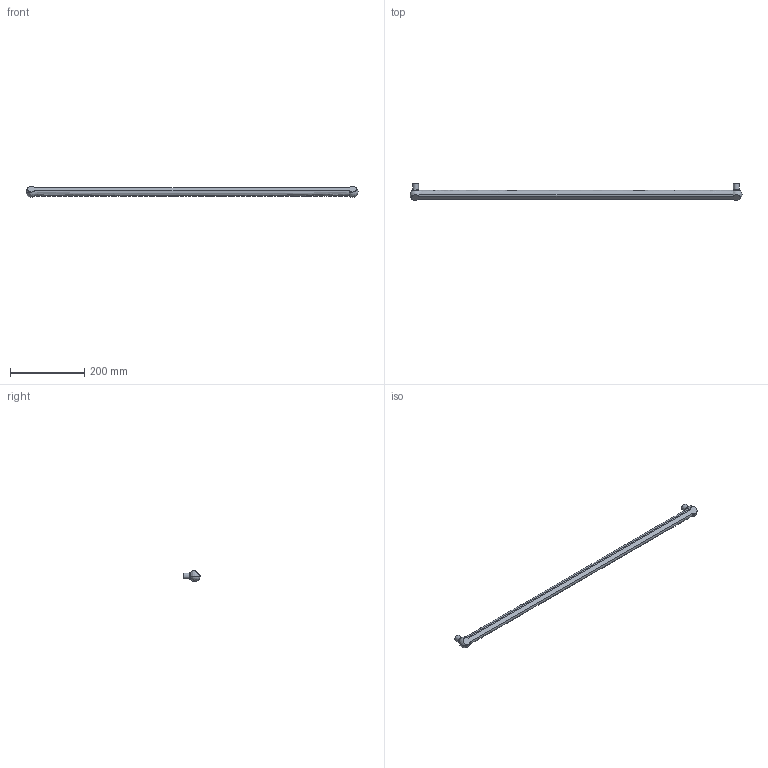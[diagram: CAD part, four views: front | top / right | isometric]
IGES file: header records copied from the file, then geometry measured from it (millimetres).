
Start section: Data from Parasolid IGES Translator 15.0.47, Copyright(c) 2006 Siemens P LM Software. All Rights Reserved.
Global section: file name: 9105774.igs; native system:  By UGS Corp.; preprocessor: XPlus GENERIC/IGES 3.0; author: Noname; organization: Noname; date: 20140122.155759; units: millimetre
Bounding box: 894.93 x 45 x 29.96 mm (x, y, z)
Surface area: 69765.7 mm2 (no closed solid volume)
Topology: 0 solids, 0 shells, 17 faces, 78 edges, 68 vertices
Faces by surface type: revolution 12, extrusion 5
